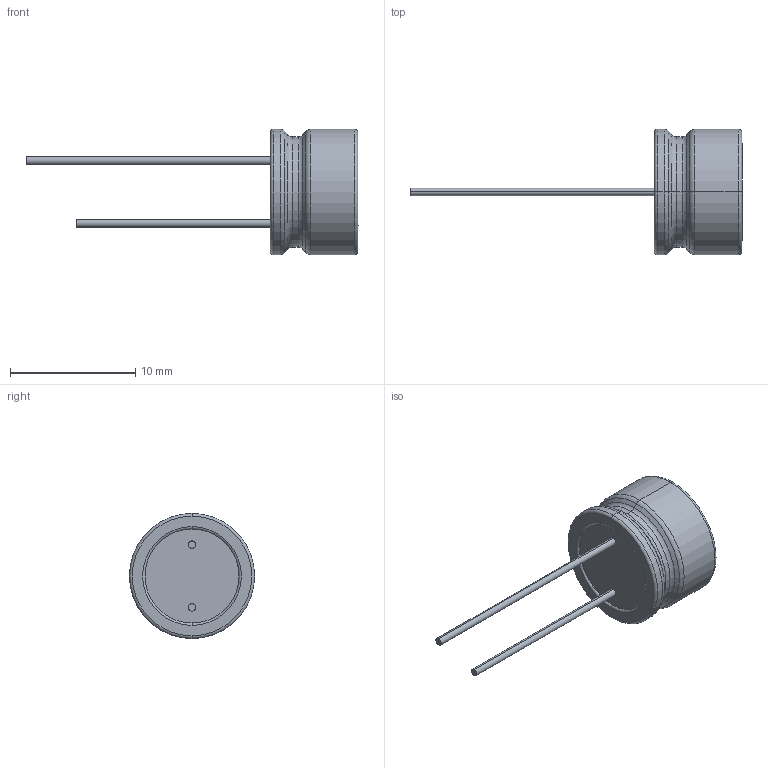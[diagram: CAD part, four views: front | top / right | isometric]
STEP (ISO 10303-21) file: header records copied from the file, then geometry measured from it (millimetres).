
FILE_DESCRIPTION((''),'2;1');
FILE_NAME('POLYMER-RADIAL10X7','2020-06-03T',('xy'),(''),'PRO/ENGINEER BY PARAMETRIC TECHNOLOGY CORPORATION, 2009380','PRO/ENGINEER BY PARAMETRIC TECHNOLOGY CORPORATION, 2009380','');
FILE_SCHEMA(('CONFIG_CONTROL_DESIGN'));
Length unit declared in the file: millimetre
Products named in the file (1): POLYMER-RADIAL10X7
Bounding box: 26.5 x 10 x 10 mm (x, y, z)
Volume: 523.9 mm3; surface area: 446.9 mm2
Topology: 1 solids, 1 shells, 419 faces, 1154 edges, 762 vertices
Faces by surface type: plane 387, torus 15, cylinder 13, cone 4
Entity records: 13121 total; most frequent: CARTESIAN_POINT 2359, ORIENTED_EDGE 2308, DIRECTION 2042, EDGE_CURVE 1154, VECTOR 1098, LINE 1098, VERTEX_POINT 762, AXIS2_PLACEMENT_3D 472
